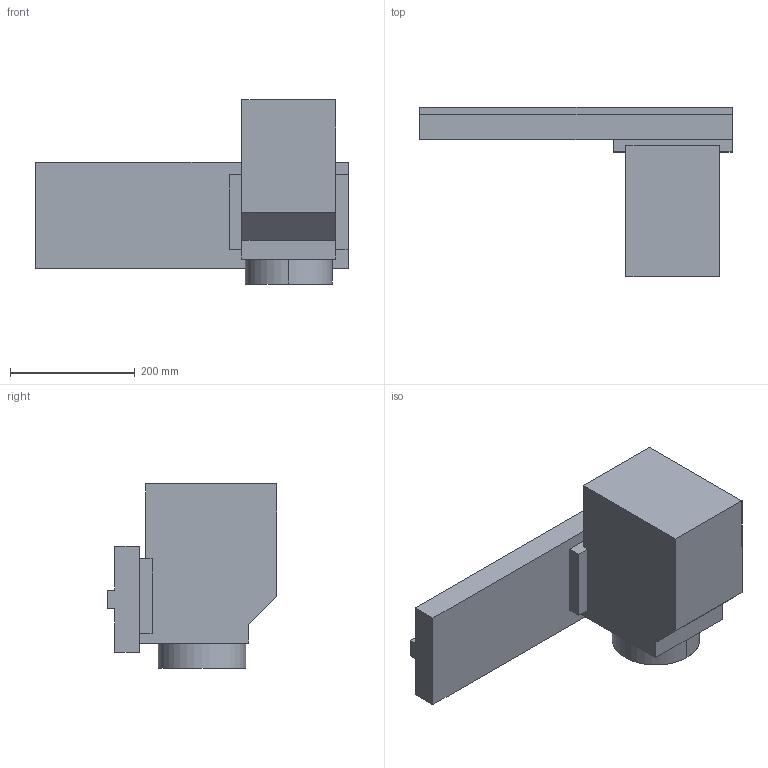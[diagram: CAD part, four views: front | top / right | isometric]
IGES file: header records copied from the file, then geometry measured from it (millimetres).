
Start section: SolidWorks IGES file using analytic representation for surfaces
Global section: file name: C:\Documents and Settings\PHILIPPE\Mes documents\DAO-FAO\esprit\Machines\Tour euroturn gris 2\Fichiers-sw2006\Axe-X-euroturn-gris-2.IGS; native system: SolidWorks 2006 by SolidWorks Corporation; preprocessor: SolidWorks 2006 by SolidWorks Corporation; author: PHILIPPE; date: 070519.122925; units: millimetre
Bounding box: 500 x 272 x 295 mm (x, y, z)
Surface area: 458633.9 mm2 (no closed solid volume)
Topology: 0 solids, 0 shells, 27 faces, 268 edges, 268 vertices
Faces by surface type: bspline 25, revolution 2
